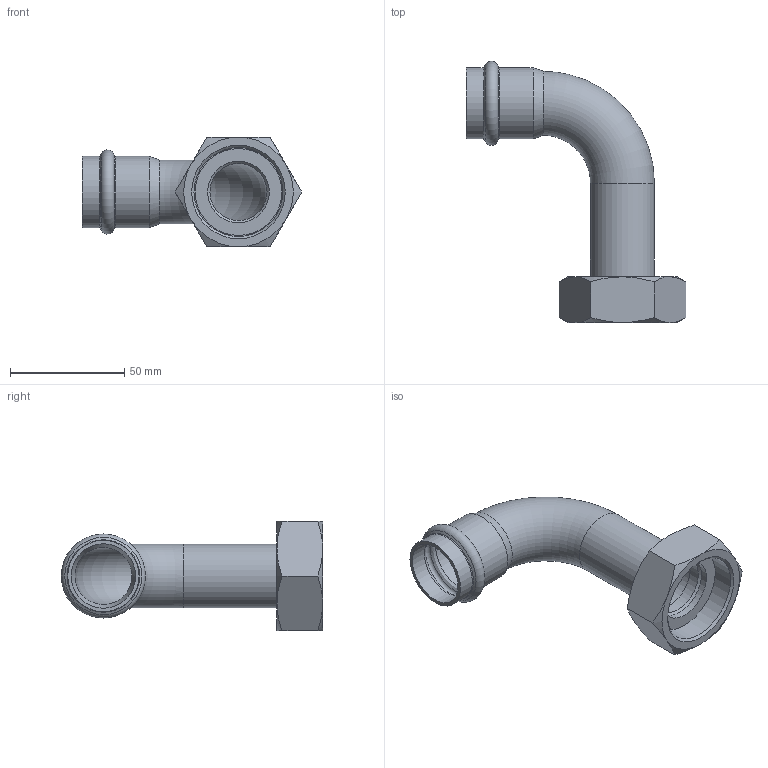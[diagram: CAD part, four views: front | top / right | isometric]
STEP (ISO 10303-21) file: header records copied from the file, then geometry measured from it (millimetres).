
FILE_DESCRIPTION((''),'2;1');
FILE_NAME('G:\Nirosan-Schmiedefeld\Technics\CAD\Bauteile VA\028\69002m28114(3).stp','2011-06-29T11:31:42',('herberg'),(''),'Autodesk Inventor 2009','Autodesk Inventor 2009','');
FILE_SCHEMA(('AUTOMOTIVE_DESIGN { 1 0 10303 214 1 1 1 1 }'));
Length unit declared in the file: millimetre
Products named in the file (5): 69002m28114(3); 69001A28(1); R28114(0); FD_3827_EPDM(0); SM28114(3)
Assembly tree (4 placements, depth 2):
  69002m28114(3)
    69001A28(1)
    R28114(0)
    FD_3827_EPDM(0)
    SM28114(3)
Bounding box: 96.11 x 114.39 x 48 mm (x, y, z)
Volume: 38571.3 mm3; surface area: 35184.3 mm2
Topology: 4 solids, 4 shells, 56 faces, 110 edges, 64 vertices
Faces by surface type: cone 18, plane 15, cylinder 11, bspline 8, torus 4
Full cylindrical faces by diameter (mm): 25 x2, 27 x1, 28 x2, 28.2 x2, 31.2 x2, 38 x2
Entity records: 1690 total; most frequent: CARTESIAN_POINT 580, DIRECTION 214, ORIENTED_EDGE 158, AXIS2_PLACEMENT_3D 104, EDGE_LOOP 94, EDGE_CURVE 79, VERTEX_POINT 61, FACE_OUTER_BOUND 56
